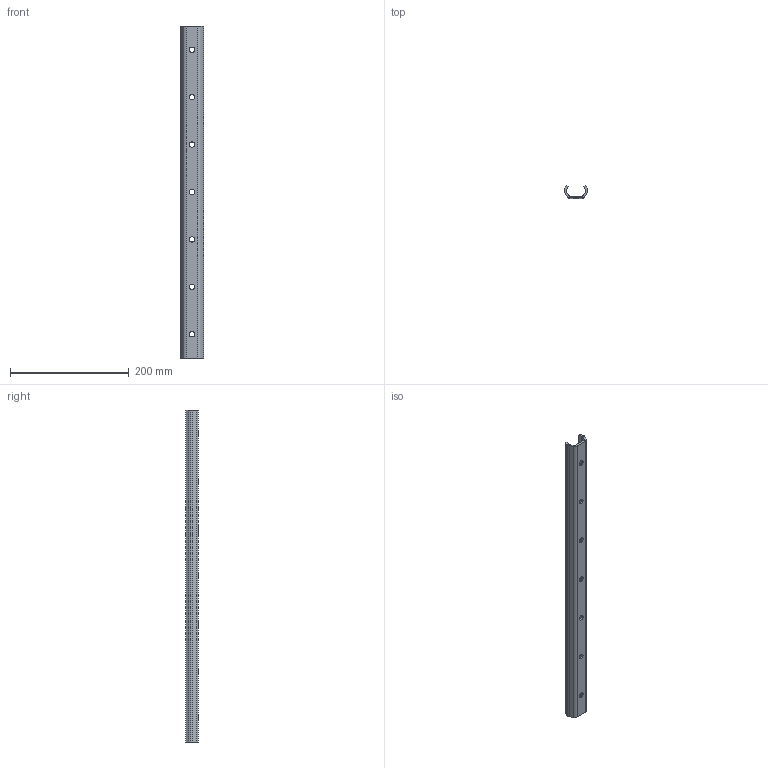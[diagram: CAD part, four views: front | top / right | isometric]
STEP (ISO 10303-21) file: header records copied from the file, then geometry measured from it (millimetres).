
FILE_DESCRIPTION(('STEP AP214'),'1');
FILE_NAME('rail_tex40-560.stp','2019-03-08T08:32:54',('TraceParts'),('TraceParts S.A.'),'Spatial InterOp 3D',' ',' ');
FILE_SCHEMA(('automotive_design'));
Length unit declared in the file: millimetre
Products named in the file (1): rail_tex40-560
Bounding box: 39.53 x 21 x 560 mm (x, y, z)
Volume: 109482.3 mm3; surface area: 77442.7 mm2
Topology: 1 solids, 1 shells, 154 faces, 402 edges, 268 vertices
Faces by surface type: plane 106, cylinder 26, bspline 22
Entity records: 9343 total; most frequent: CARTESIAN_POINT 4359, ORIENTED_EDGE 804, DIRECTION 676, EDGE_CURVE 402, LINE 306, VECTOR 306, VERTEX_POINT 268, EDGE_LOOP 186
